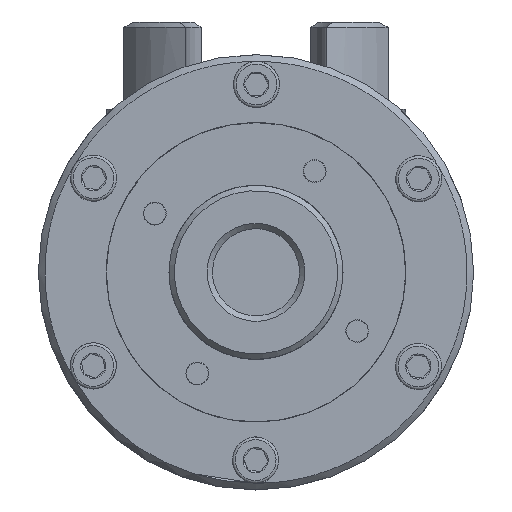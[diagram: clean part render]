
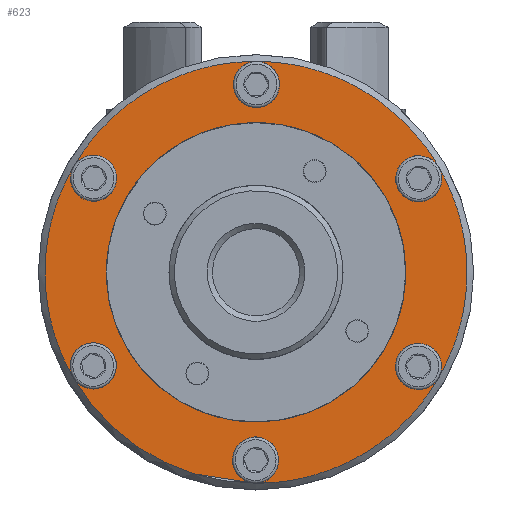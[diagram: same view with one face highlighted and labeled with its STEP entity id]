
A CAD part, left-side view. The second image highlights one B-rep face of the part: STEP entity #623.
In plain terms, the highlighted planar face has unit normal (-1, 0, 0).
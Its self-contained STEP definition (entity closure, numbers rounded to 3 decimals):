
#623 = ADVANCED_FACE( '', ( #1257, #1258 ), #1259, .F. );
#1257 = FACE_OUTER_BOUND( '', #2415, .T. );
#1258 = FACE_BOUND( '', #2416, .T. );
#1259 = PLANE( '', #2417 );
#2415 = EDGE_LOOP( '', ( #3791, #3792, #3793, #3794, #3795, #3796, #3797, #3798, #3799, #3800, #3801, #3802 ) );
#2416 = EDGE_LOOP( '', ( #3803 ) );
#2417 = AXIS2_PLACEMENT_3D( '', #3804, #3805, #3806 );
#3791 = ORIENTED_EDGE( '', *, *, #6501, .T. );
#3792 = ORIENTED_EDGE( '', *, *, #6494, .T. );
#3793 = ORIENTED_EDGE( '', *, *, #6502, .T. );
#3794 = ORIENTED_EDGE( '', *, *, #6493, .T. );
#3795 = ORIENTED_EDGE( '', *, *, #6499, .T. );
#3796 = ORIENTED_EDGE( '', *, *, #6498, .T. );
#3797 = ORIENTED_EDGE( '', *, *, #6503, .T. );
#3798 = ORIENTED_EDGE( '', *, *, #6497, .T. );
#3799 = ORIENTED_EDGE( '', *, *, #6504, .T. );
#3800 = ORIENTED_EDGE( '', *, *, #6496, .T. );
#3801 = ORIENTED_EDGE( '', *, *, #6505, .T. );
#3802 = ORIENTED_EDGE( '', *, *, #6495, .T. );
#3803 = ORIENTED_EDGE( '', *, *, #6506, .F. );
#3804 = CARTESIAN_POINT( '', ( -13.499, 40., 0. ) );
#3805 = DIRECTION( '', ( 1., 0., 0. ) );
#3806 = DIRECTION( '', ( 0., 1., 0. ) );
#6493 = EDGE_CURVE( '', #7432, #7433, #7434, .F. );
#6494 = EDGE_CURVE( '', #7435, #7432, #7436, .F. );
#6495 = EDGE_CURVE( '', #7437, #7435, #7438, .F. );
#6496 = EDGE_CURVE( '', #7439, #7437, #7440, .F. );
#6497 = EDGE_CURVE( '', #7441, #7439, #7442, .F. );
#6498 = EDGE_CURVE( '', #7433, #7441, #7443, .F. );
#6499 = EDGE_CURVE( '', #7433, #7433, #7444, .T. );
#6501 = EDGE_CURVE( '', #7435, #7435, #7447, .T. );
#6502 = EDGE_CURVE( '', #7432, #7432, #7448, .T. );
#6503 = EDGE_CURVE( '', #7441, #7441, #7449, .T. );
#6504 = EDGE_CURVE( '', #7439, #7439, #7450, .T. );
#6505 = EDGE_CURVE( '', #7437, #7437, #7451, .T. );
#6506 = EDGE_CURVE( '', #7452, #7452, #7453, .F. );
#7432 = VERTEX_POINT( '', #9166 );
#7433 = VERTEX_POINT( '', #9167 );
#7434 = CIRCLE( '', #9168, 38.75 );
#7435 = VERTEX_POINT( '', #9169 );
#7436 = CIRCLE( '', #9170, 38.75 );
#7437 = VERTEX_POINT( '', #9171 );
#7438 = CIRCLE( '', #9172, 38.75 );
#7439 = VERTEX_POINT( '', #9173 );
#7440 = CIRCLE( '', #9174, 38.75 );
#7441 = VERTEX_POINT( '', #9175 );
#7442 = CIRCLE( '', #9176, 38.75 );
#7443 = CIRCLE( '', #9177, 38.75 );
#7444 = CIRCLE( '', #9178, 4.25 );
#7447 = CIRCLE( '', #9181, 4.25 );
#7448 = CIRCLE( '', #9182, 4.25 );
#7449 = CIRCLE( '', #9183, 4.25 );
#7450 = CIRCLE( '', #9184, 4.25 );
#7451 = CIRCLE( '', #9185, 4.25 );
#7452 = VERTEX_POINT( '', #9186 );
#7453 = CIRCLE( '', #9187, 27.5 );
#9166 = CARTESIAN_POINT( '', ( -13.499, 33.558, 19.375 ) );
#9167 = CARTESIAN_POINT( '', ( -13.499, 33.558, -19.375 ) );
#9168 = AXIS2_PLACEMENT_3D( '', #11383, #11384, #11385 );
#9169 = CARTESIAN_POINT( '', ( -13.499, 0., 38.75 ) );
#9170 = AXIS2_PLACEMENT_3D( '', #11386, #11387, #11388 );
#9171 = CARTESIAN_POINT( '', ( -13.499, -33.558, 19.375 ) );
#9172 = AXIS2_PLACEMENT_3D( '', #11389, #11390, #11391 );
#9173 = CARTESIAN_POINT( '', ( -13.499, -33.558, -19.375 ) );
#9174 = AXIS2_PLACEMENT_3D( '', #11392, #11393, #11394 );
#9175 = CARTESIAN_POINT( '', ( -13.499, 0., -38.75 ) );
#9176 = AXIS2_PLACEMENT_3D( '', #11395, #11396, #11397 );
#9177 = AXIS2_PLACEMENT_3D( '', #11398, #11399, #11400 );
#9178 = AXIS2_PLACEMENT_3D( '', #11401, #11402, #11403 );
#9181 = AXIS2_PLACEMENT_3D( '', #11407, #11408, #11409 );
#9182 = AXIS2_PLACEMENT_3D( '', #11410, #11411, #11412 );
#9183 = AXIS2_PLACEMENT_3D( '', #11413, #11414, #11415 );
#9184 = AXIS2_PLACEMENT_3D( '', #11416, #11417, #11418 );
#9185 = AXIS2_PLACEMENT_3D( '', #11419, #11420, #11421 );
#9186 = CARTESIAN_POINT( '', ( -13.499, 0., -27.5 ) );
#9187 = AXIS2_PLACEMENT_3D( '', #11422, #11423, #11424 );
#11383 = CARTESIAN_POINT( '', ( -13.499, 0., 0. ) );
#11384 = DIRECTION( '', ( 1., 0., 0. ) );
#11385 = DIRECTION( '', ( 0., 0., -1. ) );
#11386 = CARTESIAN_POINT( '', ( -13.499, 0., 0. ) );
#11387 = DIRECTION( '', ( 1., 0., 0. ) );
#11388 = DIRECTION( '', ( 0., 0., -1. ) );
#11389 = CARTESIAN_POINT( '', ( -13.499, 0., 0. ) );
#11390 = DIRECTION( '', ( 1., 0., 0. ) );
#11391 = DIRECTION( '', ( 0., 0., -1. ) );
#11392 = CARTESIAN_POINT( '', ( -13.499, 0., 0. ) );
#11393 = DIRECTION( '', ( 1., 0., 0. ) );
#11394 = DIRECTION( '', ( 0., 0., -1. ) );
#11395 = CARTESIAN_POINT( '', ( -13.499, 0., 0. ) );
#11396 = DIRECTION( '', ( 1., 0., 0. ) );
#11397 = DIRECTION( '', ( 0., 0., -1. ) );
#11398 = CARTESIAN_POINT( '', ( -13.499, 0., 0. ) );
#11399 = DIRECTION( '', ( 1., 0., 0. ) );
#11400 = DIRECTION( '', ( 0., 0., -1. ) );
#11401 = CARTESIAN_POINT( '', ( -13.499, 29.878, -17.25 ) );
#11402 = DIRECTION( '', ( 1., 0., 0. ) );
#11403 = DIRECTION( '', ( 0., 0., -1. ) );
#11407 = CARTESIAN_POINT( '', ( -13.499, 0., 34.5 ) );
#11408 = DIRECTION( '', ( 1., 0., 0. ) );
#11409 = DIRECTION( '', ( 0., 0., -1. ) );
#11410 = CARTESIAN_POINT( '', ( -13.499, 29.878, 17.25 ) );
#11411 = DIRECTION( '', ( 1., 0., 0. ) );
#11412 = DIRECTION( '', ( 0., 0., -1. ) );
#11413 = CARTESIAN_POINT( '', ( -13.499, 0., -34.5 ) );
#11414 = DIRECTION( '', ( 1., 0., 0. ) );
#11415 = DIRECTION( '', ( 0., 0., -1. ) );
#11416 = CARTESIAN_POINT( '', ( -13.499, -29.878, -17.25 ) );
#11417 = DIRECTION( '', ( 1., 0., 0. ) );
#11418 = DIRECTION( '', ( 0., 0., -1. ) );
#11419 = CARTESIAN_POINT( '', ( -13.499, -29.878, 17.25 ) );
#11420 = DIRECTION( '', ( 1., 0., 0. ) );
#11421 = DIRECTION( '', ( 0., 0., -1. ) );
#11422 = CARTESIAN_POINT( '', ( -13.499, 0., 0. ) );
#11423 = DIRECTION( '', ( 1., 0., 0. ) );
#11424 = DIRECTION( '', ( 0., 0., -1. ) );
